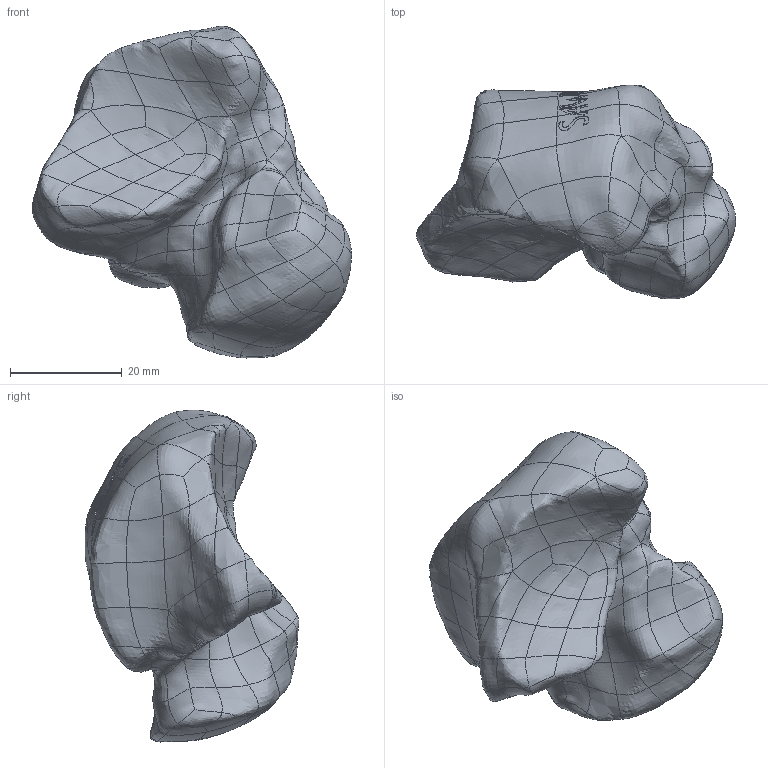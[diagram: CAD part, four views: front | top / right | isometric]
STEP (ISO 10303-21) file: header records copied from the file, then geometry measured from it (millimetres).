
FILE_DESCRIPTION (( 'STEP AP203' ), '1' );
FILE_NAME ('1124.STEP', '2025-06-04T19:15:18', ( '' ), ( '' ), 'SwSTEP 2.0', 'SolidWorks 2024', '' );
FILE_SCHEMA (( 'CONFIG_CONTROL_DESIGN' ));
Products named in the file (1): 1124
Bounding box: 57.09 x 38.22 x 59.39 mm (x, y, z)
Volume: 41603.2 mm3; surface area: 7817.9 mm2
Topology: 1 solids, 1 shells, 445 faces, 1065 edges, 631 vertices
Faces by surface type: bspline 442, plane 3
Entity records: 116353 total; most frequent: CARTESIAN_POINT 109571, ORIENTED_EDGE 2130, EDGE_CURVE 1065, B_SPLINE_CURVE_WITH_KNOTS 1065, VERTEX_POINT 631, EDGE_LOOP 454, FACE_OUTER_BOUND 445, ADVANCED_FACE 445
